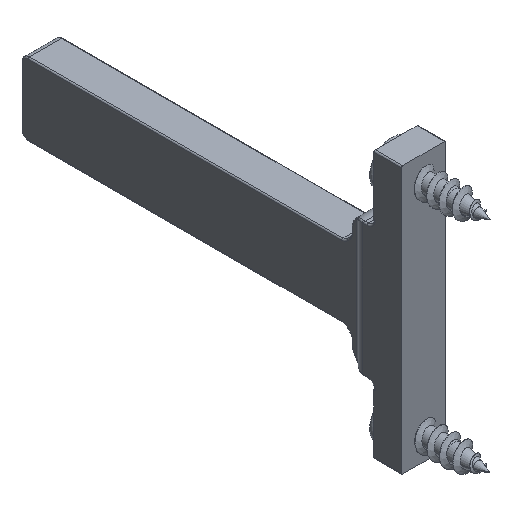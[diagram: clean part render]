
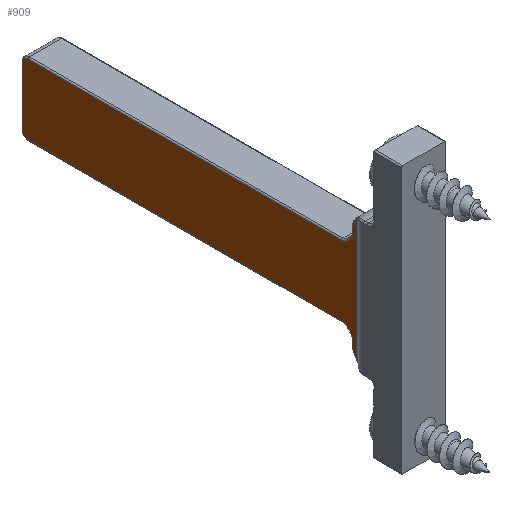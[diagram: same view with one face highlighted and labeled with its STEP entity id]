
A CAD part, isometric view. The second image highlights one B-rep face of the part: STEP entity #909.
In plain terms, the highlighted planar face has unit normal (-1, 0, 0).
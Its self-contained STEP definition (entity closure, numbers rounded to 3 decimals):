
#14 = DIRECTION ( 'NONE',  ( -1., 0., 0. ) ) ;
#22 = DIRECTION ( 'NONE',  ( 0., 0., 1. ) ) ;
#34 = CARTESIAN_POINT ( 'NONE',  ( -2.55, 9.414, 13.2 ) ) ;
#159 = CARTESIAN_POINT ( 'NONE',  ( -2.55, 34.509, 39.991 ) ) ;
#327 = DIRECTION ( 'NONE',  ( 0., 0., -1. ) ) ;
#706 = CIRCLE ( 'NONE', #2021, 1.2 ) ;
#721 = VERTEX_POINT ( 'NONE', #3733 ) ;
#754 = CARTESIAN_POINT ( 'NONE',  ( -2.55, 7., 24.6 ) ) ;
#815 = AXIS2_PLACEMENT_3D ( 'NONE', #7493, #8611, #8700 ) ;
#909 = ADVANCED_FACE ( 'NONE', ( #7570 ), #6957, .F. ) ;
#912 = LINE ( 'NONE', #2260, #994 ) ;
#994 = VECTOR ( 'NONE', #4804, 1000. ) ;
#1126 = AXIS2_PLACEMENT_3D ( 'NONE', #7450, #3207, #5030 ) ;
#1178 = VECTOR ( 'NONE', #7500, 1000. ) ;
#1194 = CARTESIAN_POINT ( 'NONE',  ( -2.55, 7.207, 10.709 ) ) ;
#1229 = VERTEX_POINT ( 'NONE', #5691 ) ;
#1246 = CARTESIAN_POINT ( 'NONE',  ( -2.55, 7.207, 10.25 ) ) ;
#1308 = AXIS2_PLACEMENT_3D ( 'NONE', #34, #14, #22 ) ;
#1340 = CARTESIAN_POINT ( 'NONE',  ( -2.55, 8.566, 14.049 ) ) ;
#1448 = DIRECTION ( 'NONE',  ( 0., -1., 0. ) ) ;
#1486 = DIRECTION ( 'NONE',  ( 0., 0., -1. ) ) ;
#1553 = CARTESIAN_POINT ( 'NONE',  ( -2.55, 7., 14.4 ) ) ;
#1633 = CARTESIAN_POINT ( 'NONE',  ( -2.55, 55.2, 24.6 ) ) ;
#1818 = EDGE_CURVE ( 'NONE', #4625, #2155, #9372, .T. ) ;
#1831 = AXIS2_PLACEMENT_3D ( 'NONE', #2953, #2946, #2938 ) ;
#2021 = AXIS2_PLACEMENT_3D ( 'NONE', #6560, #7220, #3372 ) ;
#2155 = VERTEX_POINT ( 'NONE', #7440 ) ;
#2185 = CIRCLE ( 'NONE', #5974, 1.2 ) ;
#2260 = CARTESIAN_POINT ( 'NONE',  ( -2.55, 34.509, -0.991 ) ) ;
#2439 = DIRECTION ( 'NONE',  ( 0., 0., -1. ) ) ;
#2737 = VERTEX_POINT ( 'NONE', #3809 ) ;
#2784 = CARTESIAN_POINT ( 'NONE',  ( -2.55, 7.8, 67.5 ) ) ;
#2853 = LINE ( 'NONE', #7526, #2955 ) ;
#2903 = LINE ( 'NONE', #754, #1178 ) ;
#2938 = DIRECTION ( 'NONE',  ( 0., 0., -1. ) ) ;
#2946 = DIRECTION ( 'NONE',  ( -1., 0., 0. ) ) ;
#2953 = CARTESIAN_POINT ( 'NONE',  ( -2.55, 55.2, 15.2 ) ) ;
#2955 = VECTOR ( 'NONE', #327, 1000. ) ;
#2962 = ORIENTED_EDGE ( 'NONE', *, *, #3279, .T. ) ;
#2995 = ORIENTED_EDGE ( 'NONE', *, *, #3525, .F. ) ;
#3044 = ORIENTED_EDGE ( 'NONE', *, *, #3563, .F. ) ;
#3060 = EDGE_CURVE ( 'NONE', #2155, #6624, #6981, .T. ) ;
#3092 = ORIENTED_EDGE ( 'NONE', *, *, #3579, .F. ) ;
#3149 = ORIENTED_EDGE ( 'NONE', *, *, #3727, .F. ) ;
#3156 = ORIENTED_EDGE ( 'NONE', *, *, #3795, .F. ) ;
#3162 = ORIENTED_EDGE ( 'NONE', *, *, #4409, .F. ) ;
#3191 = ORIENTED_EDGE ( 'NONE', *, *, #4528, .T. ) ;
#3205 = ORIENTED_EDGE ( 'NONE', *, *, #4856, .T. ) ;
#3207 = DIRECTION ( 'NONE',  ( -1., 0., 0. ) ) ;
#3212 = ORIENTED_EDGE ( 'NONE', *, *, #5100, .T. ) ;
#3256 = ORIENTED_EDGE ( 'NONE', *, *, #5598, .T. ) ;
#3279 = EDGE_CURVE ( 'NONE', #6624, #8915, #6500, .T. ) ;
#3294 = ORIENTED_EDGE ( 'NONE', *, *, #5625, .T. ) ;
#3317 = CIRCLE ( 'NONE', #6141, 0.8 ) ;
#3318 = CIRCLE ( 'NONE', #7627, 2.3 ) ;
#3336 = ORIENTED_EDGE ( 'NONE', *, *, #6722, .T. ) ;
#3360 = ORIENTED_EDGE ( 'NONE', *, *, #7935, .T. ) ;
#3372 = DIRECTION ( 'NONE',  ( 0., 0., -1. ) ) ;
#3389 = ORIENTED_EDGE ( 'NONE', *, *, #1818, .T. ) ;
#3408 = AXIS2_PLACEMENT_3D ( 'NONE', #6842, #6970, #6986 ) ;
#3436 = ORIENTED_EDGE ( 'NONE', *, *, #3060, .T. ) ;
#3525 = EDGE_CURVE ( 'NONE', #8678, #8915, #5931, .T. ) ;
#3563 = EDGE_CURVE ( 'NONE', #2737, #8678, #5692, .T. ) ;
#3579 = EDGE_CURVE ( 'NONE', #9013, #2737, #5723, .T. ) ;
#3714 = LINE ( 'NONE', #1246, #3720 ) ;
#3720 = VECTOR ( 'NONE', #1486, 1000. ) ;
#3727 = EDGE_CURVE ( 'NONE', #8099, #9013, #5257, .T. ) ;
#3733 = CARTESIAN_POINT ( 'NONE',  ( -2.55, 8.566, 24.951 ) ) ;
#3795 = EDGE_CURVE ( 'NONE', #6985, #8099, #4981, .T. ) ;
#3809 = CARTESIAN_POINT ( 'NONE',  ( -2.55, 8.151, 13.634 ) ) ;
#3998 = CARTESIAN_POINT ( 'NONE',  ( -2.55, 7.8, 12.25 ) ) ;
#4071 = VERTEX_POINT ( 'NONE', #1633 ) ;
#4284 = CARTESIAN_POINT ( 'NONE',  ( -2.55, 55.2, 14.4 ) ) ;
#4405 = CARTESIAN_POINT ( 'NONE',  ( -2.55, 55.2, 23.8 ) ) ;
#4409 = EDGE_CURVE ( 'NONE', #7743, #6985, #3714, .T. ) ;
#4528 = EDGE_CURVE ( 'NONE', #7743, #7755, #3318, .T. ) ;
#4570 = CARTESIAN_POINT ( 'NONE',  ( -2.55, 8.151, 25.366 ) ) ;
#4578 = CARTESIAN_POINT ( 'NONE',  ( -2.55, 7.8, 26.75 ) ) ;
#4625 = VERTEX_POINT ( 'NONE', #8092 ) ;
#4678 = CARTESIAN_POINT ( 'NONE',  ( -2.55, 9.414, 14.4 ) ) ;
#4804 = DIRECTION ( 'NONE',  ( 0., 0.707, -0.707 ) ) ;
#4856 = EDGE_CURVE ( 'NONE', #7755, #7561, #2853, .T. ) ;
#4981 = CIRCLE ( 'NONE', #815, 2.3 ) ;
#5030 = DIRECTION ( 'NONE',  ( 0., 0., 1. ) ) ;
#5100 = EDGE_CURVE ( 'NONE', #7561, #6619, #2185, .T. ) ;
#5257 = LINE ( 'NONE', #2784, #5391 ) ;
#5391 = VECTOR ( 'NONE', #6156, 1000. ) ;
#5596 = EDGE_LOOP ( 'NONE', ( #2962, #2995, #3044, #3092, #3149, #3156, #3162, #3191, #3205, #3212, #3256, #3294, #3336, #3360, #3389, #3436 ) ) ;
#5598 = EDGE_CURVE ( 'NONE', #6619, #721, #912, .T. ) ;
#5625 = EDGE_CURVE ( 'NONE', #721, #1229, #706, .T. ) ;
#5691 = CARTESIAN_POINT ( 'NONE',  ( -2.55, 9.414, 24.6 ) ) ;
#5692 = LINE ( 'NONE', #159, #5701 ) ;
#5701 = VECTOR ( 'NONE', #7572, 1000. ) ;
#5723 = CIRCLE ( 'NONE', #1126, 1.2 ) ;
#5783 = CARTESIAN_POINT ( 'NONE',  ( -2.55, 5.5, 26.75 ) ) ;
#5931 = CIRCLE ( 'NONE', #1308, 1.2 ) ;
#5974 = AXIS2_PLACEMENT_3D ( 'NONE', #8315, #8836, #7954 ) ;
#6141 = AXIS2_PLACEMENT_3D ( 'NONE', #4405, #7713, #2439 ) ;
#6156 = DIRECTION ( 'NONE',  ( 0., 0., 1. ) ) ;
#6489 = VECTOR ( 'NONE', #1448, 1000. ) ;
#6500 = LINE ( 'NONE', #1553, #6489 ) ;
#6560 = CARTESIAN_POINT ( 'NONE',  ( -2.55, 9.414, 25.8 ) ) ;
#6619 = VERTEX_POINT ( 'NONE', #4570 ) ;
#6624 = VERTEX_POINT ( 'NONE', #4284 ) ;
#6722 = EDGE_CURVE ( 'NONE', #1229, #4071, #2903, .T. ) ;
#6842 = CARTESIAN_POINT ( 'NONE',  ( -2.55, 7., 67.5 ) ) ;
#6957 = PLANE ( 'NONE',  #3408 ) ;
#6970 = DIRECTION ( 'NONE',  ( 1., 0., 0. ) ) ;
#6981 = CIRCLE ( 'NONE', #1831, 0.8 ) ;
#6985 = VERTEX_POINT ( 'NONE', #1194 ) ;
#6986 = DIRECTION ( 'NONE',  ( 0., 0., 1. ) ) ;
#7031 = CARTESIAN_POINT ( 'NONE',  ( -2.55, 7.8, 26.214 ) ) ;
#7220 = DIRECTION ( 'NONE',  ( 1., 0., 0. ) ) ;
#7373 = CARTESIAN_POINT ( 'NONE',  ( -2.55, 7.207, 28.291 ) ) ;
#7440 = CARTESIAN_POINT ( 'NONE',  ( -2.55, 56., 15.2 ) ) ;
#7450 = CARTESIAN_POINT ( 'NONE',  ( -2.55, 9., 12.786 ) ) ;
#7493 = CARTESIAN_POINT ( 'NONE',  ( -2.55, 5.5, 12.25 ) ) ;
#7500 = DIRECTION ( 'NONE',  ( 0., 1., 0. ) ) ;
#7526 = CARTESIAN_POINT ( 'NONE',  ( -2.55, 7.8, -28.5 ) ) ;
#7561 = VERTEX_POINT ( 'NONE', #7031 ) ;
#7570 = FACE_OUTER_BOUND ( 'NONE', #5596, .T. ) ;
#7572 = DIRECTION ( 'NONE',  ( 0., 0.707, 0.707 ) ) ;
#7627 = AXIS2_PLACEMENT_3D ( 'NONE', #5783, #9439, #8022 ) ;
#7713 = DIRECTION ( 'NONE',  ( -1., 0., 0. ) ) ;
#7743 = VERTEX_POINT ( 'NONE', #7373 ) ;
#7755 = VERTEX_POINT ( 'NONE', #4578 ) ;
#7935 = EDGE_CURVE ( 'NONE', #4071, #4625, #3317, .T. ) ;
#7954 = DIRECTION ( 'NONE',  ( 0., 0., -1. ) ) ;
#8022 = DIRECTION ( 'NONE',  ( 0., 0., -1. ) ) ;
#8092 = CARTESIAN_POINT ( 'NONE',  ( -2.55, 56., 23.8 ) ) ;
#8099 = VERTEX_POINT ( 'NONE', #3998 ) ;
#8315 = CARTESIAN_POINT ( 'NONE',  ( -2.55, 9., 26.214 ) ) ;
#8451 = CARTESIAN_POINT ( 'NONE',  ( -2.55, 7.8, 12.786 ) ) ;
#8611 = DIRECTION ( 'NONE',  ( 1., 0., 0. ) ) ;
#8678 = VERTEX_POINT ( 'NONE', #1340 ) ;
#8700 = DIRECTION ( 'NONE',  ( 0., 0., 1. ) ) ;
#8836 = DIRECTION ( 'NONE',  ( 1., 0., 0. ) ) ;
#8915 = VERTEX_POINT ( 'NONE', #4678 ) ;
#9013 = VERTEX_POINT ( 'NONE', #8451 ) ;
#9232 = VECTOR ( 'NONE', #9409, 1000. ) ;
#9372 = LINE ( 'NONE', #9440, #9232 ) ;
#9409 = DIRECTION ( 'NONE',  ( 0., 0., -1. ) ) ;
#9439 = DIRECTION ( 'NONE',  ( -1., 0., 0. ) ) ;
#9440 = CARTESIAN_POINT ( 'NONE',  ( -2.55, 56., 67.5 ) ) ;
